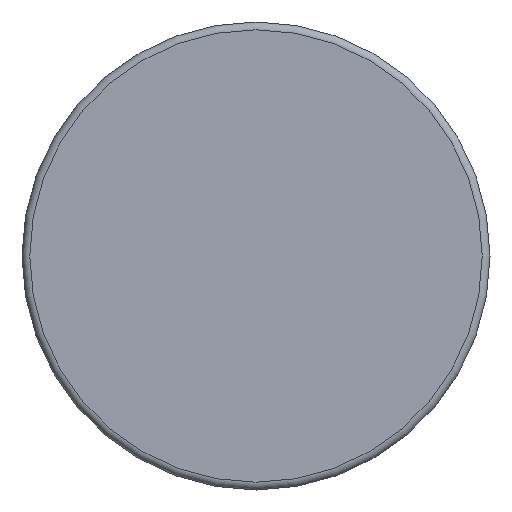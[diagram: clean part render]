
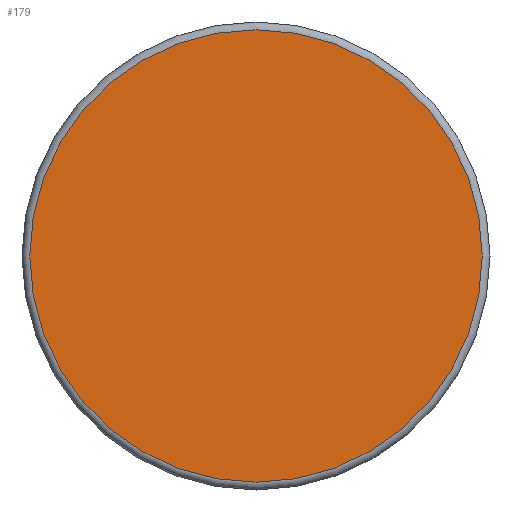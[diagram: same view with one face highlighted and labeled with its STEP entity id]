
A CAD part, front view. The second image highlights one B-rep face of the part: STEP entity #179.
In plain terms, the highlighted planar face has unit normal (0, -1, 0).
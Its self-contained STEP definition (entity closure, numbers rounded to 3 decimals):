
#179 = ADVANCED_FACE( '', ( #356 ), #357, .F. );
#356 = FACE_OUTER_BOUND( '', #556, .T. );
#357 = PLANE( '', #557 );
#556 = EDGE_LOOP( '', ( #816 ) );
#557 = AXIS2_PLACEMENT_3D( '', #817, #818, #819 );
#816 = ORIENTED_EDGE( '', *, *, #1181, .T. );
#817 = CARTESIAN_POINT( '', ( 29., 0., 0. ) );
#818 = DIRECTION( '', ( 0., 1., 0. ) );
#819 = DIRECTION( '', ( 0., 0., 1. ) );
#1181 = EDGE_CURVE( '', #1380, #1380, #1381, .T. );
#1380 = VERTEX_POINT( '', #1766 );
#1381 = CIRCLE( '', #1767, 29. );
#1766 = CARTESIAN_POINT( '', ( 0., 0., -29. ) );
#1767 = AXIS2_PLACEMENT_3D( '', #2051, #2052, #2053 );
#2051 = CARTESIAN_POINT( '', ( 0., 0., 0. ) );
#2052 = DIRECTION( '', ( 0., -1., 0. ) );
#2053 = DIRECTION( '', ( 0., 0., -1. ) );
